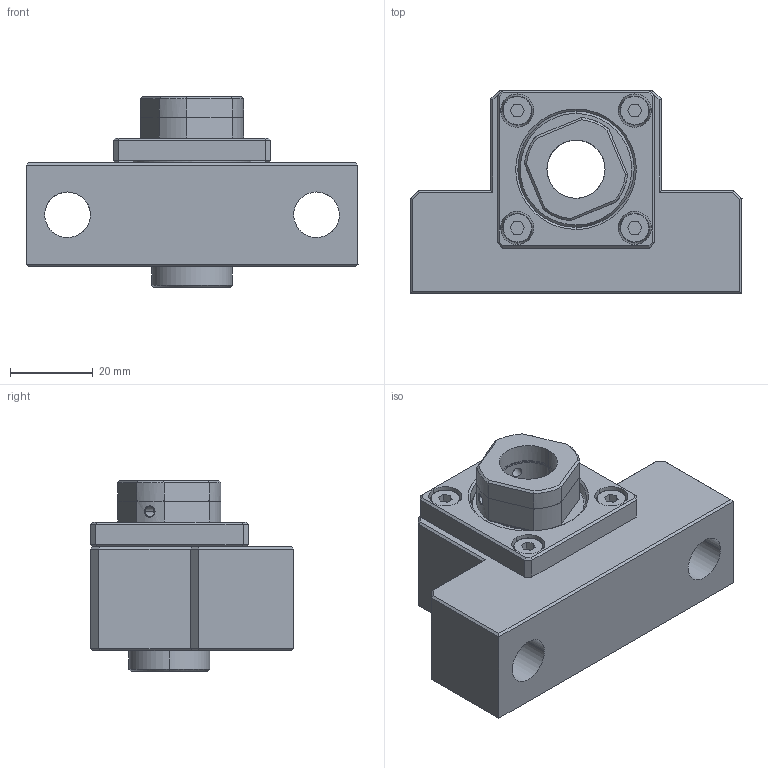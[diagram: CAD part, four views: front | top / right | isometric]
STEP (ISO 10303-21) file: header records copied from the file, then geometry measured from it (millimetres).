
FILE_DESCRIPTION (( 'STEP AP214' ), '1' );
FILE_NAME ('7.4031 EK15.STEP', '2026-03-06T08:00:42', ( '' ), ( '' ), 'SwSTEP 2.0', 'SolidWorks 2025', '' );
FILE_SCHEMA (( 'AUTOMOTIVE_DESIGN' ));
Length unit declared in the file: millimetre
Products named in the file (1): 7.4031 EK15
Bounding box: 80 x 49.1 x 46 mm (x, y, z)
Surface area: 22667.6 mm2 (no closed solid volume)
Topology: 0 solids, 15 shells, 304 faces, 861 edges, 559 vertices
Faces by surface type: plane 142, cylinder 58, cone 56, bspline 48
Entity records: 17958 total; most frequent: CARTESIAN_POINT 11609, ORIENTED_EDGE 1542, EDGE_CURVE 835, B_SPLINE_CURVE_WITH_KNOTS 779, VERTEX_POINT 559, DIRECTION 514, EDGE_LOOP 340, FACE_OUTER_BOUND 304
